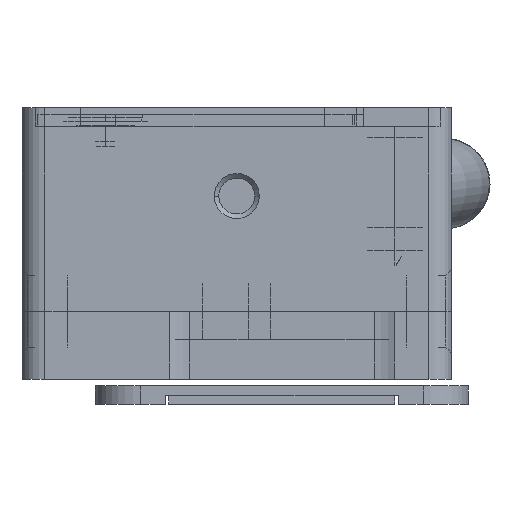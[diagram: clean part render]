
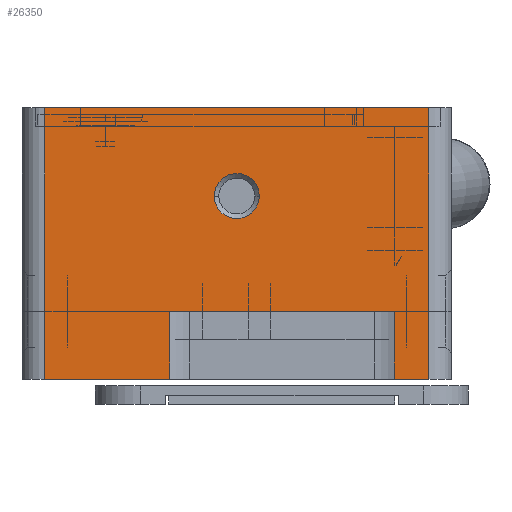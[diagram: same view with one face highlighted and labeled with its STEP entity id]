
A CAD part, left-side view. The second image highlights one B-rep face of the part: STEP entity #26350.
In plain terms, the highlighted planar face has unit normal (-1, 0, 0).
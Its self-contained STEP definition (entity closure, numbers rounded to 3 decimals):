
#2900=CARTESIAN_POINT('',(-46.,0.8,0.));
#2910=VERTEX_POINT('',#2900);
#2940=CARTESIAN_POINT('',(-46.,0.,0.));
#2950=DIRECTION('',(0.,1.,0.));
#2960=VECTOR('',#2950,1.);
#2970=LINE('',#2940,#2960);
#2980=CARTESIAN_POINT('',(-46.,6.328,0.));
#2990=VERTEX_POINT('',#2980);
#3000=EDGE_CURVE('',#2910,#2990,#2970,.T.);
#3240=CARTESIAN_POINT('',(-46.,16.272,0.));
#3250=VERTEX_POINT('',#3240);
#3280=CARTESIAN_POINT('',(-46.,17.8,0.));
#3290=VERTEX_POINT('',#3280);
#3300=EDGE_CURVE('',#3250,#3290,#2970,.T.);
#7690=CARTESIAN_POINT('',(-46.,17.8,-6.));
#7700=DIRECTION('',(0.,0.,-1.));
#7710=VECTOR('',#7700,1.);
#7720=LINE('',#7690,#7710);
#7730=CARTESIAN_POINT('',(-46.,17.8,-12.));
#7740=VERTEX_POINT('',#7730);
#7750=EDGE_CURVE('',#3290,#7740,#7720,.T.);
#10650=CARTESIAN_POINT('',(-46.,6.328,-3.));
#10660=VERTEX_POINT('',#10650);
#10690=CARTESIAN_POINT('',(-46.,0.,-3.));
#10700=DIRECTION('',(0.,1.,0.));
#10710=VECTOR('',#10700,1.);
#10720=LINE('',#10690,#10710);
#10730=CARTESIAN_POINT('',(-46.,16.272,-3.));
#10740=VERTEX_POINT('',#10730);
#10750=EDGE_CURVE('',#10660,#10740,#10720,.T.);
#12450=CARTESIAN_POINT('',(-46.,6.328,-3.006));
#12460=DIRECTION('',(0.,0.,1.));
#12470=VECTOR('',#12460,1.);
#12480=LINE('',#12450,#12470);
#12490=EDGE_CURVE('',#10660,#2990,#12480,.T.);
#16460=CARTESIAN_POINT('',(-46.,16.272,-3.006));
#16470=DIRECTION('',(0.,0.,1.));
#16480=VECTOR('',#16470,1.);
#16490=LINE('',#16460,#16480);
#16500=EDGE_CURVE('',#10740,#3250,#16490,.T.);
#22930=CARTESIAN_POINT('',(-46.,0.,-12.));
#22940=DIRECTION('',(0.,1.,0.));
#22950=VECTOR('',#22940,1.);
#22960=LINE('',#22930,#22950);
#22970=CARTESIAN_POINT('',(-46.,0.8,-12.));
#22980=VERTEX_POINT('',#22970);
#22990=EDGE_CURVE('',#22980,#7740,#22960,.T.);
#23930=CARTESIAN_POINT('',(-46.,9.3,-8.1));
#23940=DIRECTION('',(1.,0.,0.));
#23950=DIRECTION('',(0.,-1.,0.));
#23960=AXIS2_PLACEMENT_3D('',#23930,#23940,#23950);
#23970=CIRCLE('',#23960,1.);
#23980=CARTESIAN_POINT('',(-46.,8.307,-8.214));
#23990=VERTEX_POINT('',#23980);
#24000=CARTESIAN_POINT('',(-46.,10.3,-8.1));
#24010=VERTEX_POINT('',#24000);
#24020=EDGE_CURVE('',#23990,#24010,#23970,.T.);
#24160=CARTESIAN_POINT('',(-46.,8.3,-8.1));
#24170=VERTEX_POINT('',#24160);
#24200=EDGE_CURVE('',#24170,#23990,#23970,.T.);
#26090=CARTESIAN_POINT('',(-46.,17.8,-6.));
#26100=DIRECTION('',(-1.,0.,0.));
#26110=DIRECTION('',(0.,-1.,0.));
#26120=AXIS2_PLACEMENT_3D('',#26090,#26100,#26110);
#26130=PLANE('',#26120);
#26140=EDGE_CURVE('',#24010,#24170,#23970,.T.);
#26150=ORIENTED_EDGE('',*,*,#26140,.T.);
#26160=ORIENTED_EDGE('',*,*,#24020,.T.);
#26170=ORIENTED_EDGE('',*,*,#24200,.T.);
#26180=EDGE_LOOP('',(#26170,#26160,#26150));
#26190=FACE_BOUND('',#26180,.T.);
#26200=ORIENTED_EDGE('',*,*,#3300,.T.);
#26210=ORIENTED_EDGE('',*,*,#16500,.T.);
#26220=ORIENTED_EDGE('',*,*,#10750,.T.);
#26230=ORIENTED_EDGE('',*,*,#12490,.F.);
#26240=ORIENTED_EDGE('',*,*,#3000,.T.);
#26250=CARTESIAN_POINT('',(-46.,0.8,0.));
#26260=DIRECTION('',(0.,0.,-1.));
#26270=VECTOR('',#26260,1.);
#26280=LINE('',#26250,#26270);
#26290=EDGE_CURVE('',#2910,#22980,#26280,.T.);
#26300=ORIENTED_EDGE('',*,*,#26290,.F.);
#26310=ORIENTED_EDGE('',*,*,#22990,.F.);
#26320=ORIENTED_EDGE('',*,*,#7750,.T.);
#26330=EDGE_LOOP('',(#26320,#26310,#26300,#26240,#26230,#26220,#26210,
#26200));
#26340=FACE_OUTER_BOUND('',#26330,.T.);
#26350=ADVANCED_FACE('',(#26190,#26340),#26130,.T.);
